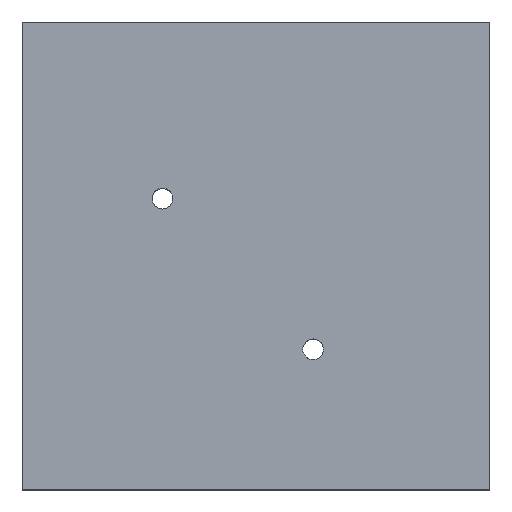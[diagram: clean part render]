
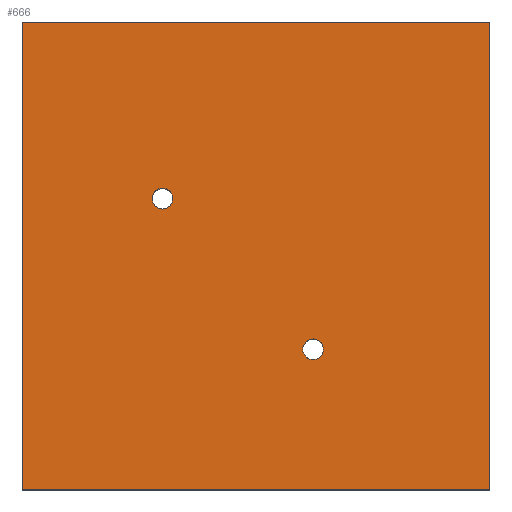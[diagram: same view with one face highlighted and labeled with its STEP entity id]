
A CAD part, top view. The second image highlights one B-rep face of the part: STEP entity #666.
In plain terms, the highlighted planar face has unit normal (0, 0, 1).
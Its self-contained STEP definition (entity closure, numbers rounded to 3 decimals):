
#16 = VERTEX_POINT ( 'NONE', #118 ) ;
#44 = VERTEX_POINT ( 'NONE', #1351 ) ;
#46 = EDGE_CURVE ( 'NONE', #184, #875, #626, .T. ) ;
#53 = FACE_OUTER_BOUND ( 'NONE', #477, .T. ) ;
#74 = VERTEX_POINT ( 'NONE', #423 ) ;
#96 = ORIENTED_EDGE ( 'NONE', *, *, #304, .F. ) ;
#107 = ORIENTED_EDGE ( 'NONE', *, *, #993, .F. ) ;
#118 = CARTESIAN_POINT ( 'NONE',  ( 22.5, -22.5, 12.5 ) ) ;
#126 = ORIENTED_EDGE ( 'NONE', *, *, #964, .T. ) ;
#132 = EDGE_CURVE ( 'NONE', #283, #16, #739, .T. ) ;
#142 = LINE ( 'NONE', #1072, #894 ) ;
#143 = ORIENTED_EDGE ( 'NONE', *, *, #342, .F. ) ;
#145 = CARTESIAN_POINT ( 'NONE',  ( -22.5, -22.5, 12.5 ) ) ;
#177 = LINE ( 'NONE', #908, #695 ) ;
#184 = VERTEX_POINT ( 'NONE', #248 ) ;
#234 = AXIS2_PLACEMENT_3D ( 'NONE', #977, #768, #1194 ) ;
#248 = CARTESIAN_POINT ( 'NONE',  ( 22.5, 22.5, 12.5 ) ) ;
#254 = FACE_BOUND ( 'NONE', #678, .T. ) ;
#263 = DIRECTION ( 'NONE',  ( 0., 0., 1. ) ) ;
#275 = CIRCLE ( 'NONE', #822, 1. ) ;
#280 = CARTESIAN_POINT ( 'NONE',  ( 5.5, -9., 12.5 ) ) ;
#283 = VERTEX_POINT ( 'NONE', #458 ) ;
#286 = DIRECTION ( 'NONE',  ( 1., 0., 0. ) ) ;
#304 = EDGE_CURVE ( 'NONE', #44, #1021, #275, .T. ) ;
#337 = AXIS2_PLACEMENT_3D ( 'NONE', #1231, #818, #286 ) ;
#338 = DIRECTION ( 'NONE',  ( 0., -1., 0. ) ) ;
#342 = EDGE_CURVE ( 'NONE', #1021, #44, #845, .T. ) ;
#354 = FACE_BOUND ( 'NONE', #1025, .T. ) ;
#358 = AXIS2_PLACEMENT_3D ( 'NONE', #280, #1219, #790 ) ;
#381 = CARTESIAN_POINT ( 'NONE',  ( 0., 0., 12.5 ) ) ;
#405 = CIRCLE ( 'NONE', #234, 1. ) ;
#414 = CARTESIAN_POINT ( 'NONE',  ( -22.5, 22.5, 12.5 ) ) ;
#423 = CARTESIAN_POINT ( 'NONE',  ( -10., 5.5, 12.5 ) ) ;
#441 = VECTOR ( 'NONE', #958, 1000. ) ;
#458 = CARTESIAN_POINT ( 'NONE',  ( -22.5, -22.5, 12.5 ) ) ;
#464 = PLANE ( 'NONE',  #494 ) ;
#477 = EDGE_LOOP ( 'NONE', ( #126, #561, #1088, #615 ) ) ;
#494 = AXIS2_PLACEMENT_3D ( 'NONE', #381, #1225, #823 ) ;
#504 = CARTESIAN_POINT ( 'NONE',  ( -22.5, 22.5, 12.5 ) ) ;
#561 = ORIENTED_EDGE ( 'NONE', *, *, #132, .T. ) ;
#570 = CARTESIAN_POINT ( 'NONE',  ( -8., 5.5, 12.5 ) ) ;
#591 = VERTEX_POINT ( 'NONE', #570 ) ;
#606 = CIRCLE ( 'NONE', #337, 1. ) ;
#615 = ORIENTED_EDGE ( 'NONE', *, *, #46, .T. ) ;
#626 = LINE ( 'NONE', #504, #1237 ) ;
#666 = ADVANCED_FACE ( 'NONE', ( #354, #254, #53 ), #464, .T. ) ;
#678 = EDGE_LOOP ( 'NONE', ( #143, #96 ) ) ;
#695 = VECTOR ( 'NONE', #1342, 1000. ) ;
#720 = CARTESIAN_POINT ( 'NONE',  ( 5.5, -9., 12.5 ) ) ;
#721 = EDGE_CURVE ( 'NONE', #591, #74, #606, .T. ) ;
#739 = LINE ( 'NONE', #145, #441 ) ;
#768 = DIRECTION ( 'NONE',  ( 0., 0., 1. ) ) ;
#790 = DIRECTION ( 'NONE',  ( 1., 0., 0. ) ) ;
#818 = DIRECTION ( 'NONE',  ( 0., 0., 1. ) ) ;
#822 = AXIS2_PLACEMENT_3D ( 'NONE', #720, #263, #898 ) ;
#823 = DIRECTION ( 'NONE',  ( 1., 0., 0. ) ) ;
#841 = DIRECTION ( 'NONE',  ( -1., 0., 0. ) ) ;
#845 = CIRCLE ( 'NONE', #358, 1. ) ;
#875 = VERTEX_POINT ( 'NONE', #414 ) ;
#894 = VECTOR ( 'NONE', #338, 1000. ) ;
#898 = DIRECTION ( 'NONE',  ( 1., 0., 0. ) ) ;
#908 = CARTESIAN_POINT ( 'NONE',  ( 22.5, 22.5, 12.5 ) ) ;
#958 = DIRECTION ( 'NONE',  ( 1., 0., 0. ) ) ;
#964 = EDGE_CURVE ( 'NONE', #875, #283, #142, .T. ) ;
#977 = CARTESIAN_POINT ( 'NONE',  ( -9., 5.5, 12.5 ) ) ;
#993 = EDGE_CURVE ( 'NONE', #74, #591, #405, .T. ) ;
#1021 = VERTEX_POINT ( 'NONE', #1312 ) ;
#1025 = EDGE_LOOP ( 'NONE', ( #1078, #107 ) ) ;
#1072 = CARTESIAN_POINT ( 'NONE',  ( -22.5, 22.5, 12.5 ) ) ;
#1078 = ORIENTED_EDGE ( 'NONE', *, *, #721, .F. ) ;
#1088 = ORIENTED_EDGE ( 'NONE', *, *, #1145, .T. ) ;
#1145 = EDGE_CURVE ( 'NONE', #16, #184, #177, .T. ) ;
#1194 = DIRECTION ( 'NONE',  ( 1., 0., 0. ) ) ;
#1219 = DIRECTION ( 'NONE',  ( 0., 0., 1. ) ) ;
#1225 = DIRECTION ( 'NONE',  ( 0., 0., 1. ) ) ;
#1231 = CARTESIAN_POINT ( 'NONE',  ( -9., 5.5, 12.5 ) ) ;
#1237 = VECTOR ( 'NONE', #841, 1000. ) ;
#1312 = CARTESIAN_POINT ( 'NONE',  ( 6.5, -9., 12.5 ) ) ;
#1342 = DIRECTION ( 'NONE',  ( 0., 1., 0. ) ) ;
#1351 = CARTESIAN_POINT ( 'NONE',  ( 4.5, -9., 12.5 ) ) ;
